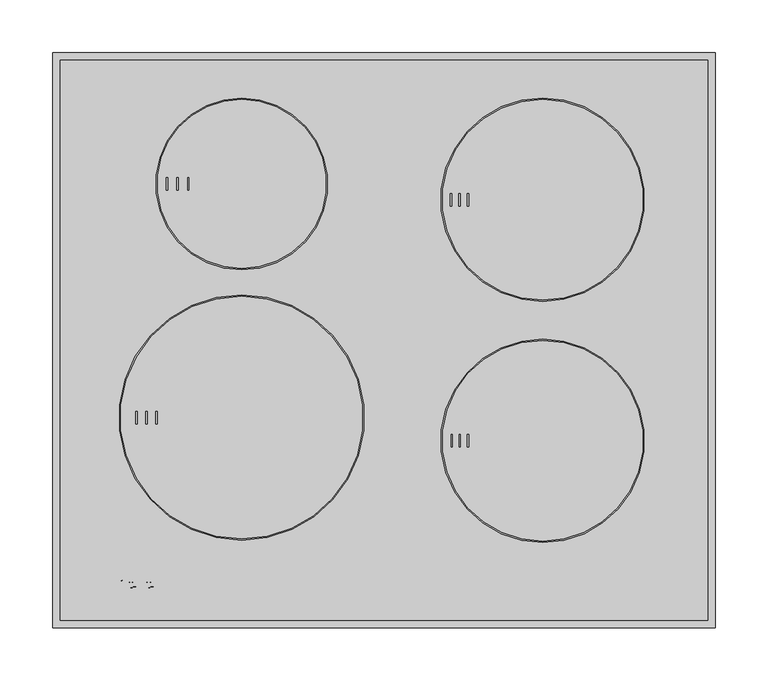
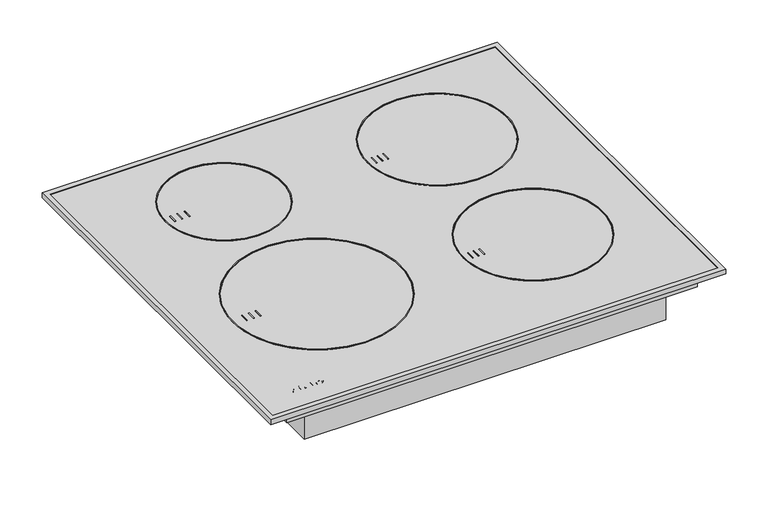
"""IFC4 building model written with IfcOpenShell, lengths in millimetres: proxy geometry, 12481660_USA_KM7020FR : 26702010_USA_12481660_KM7020FR."""

from ifc_helpers import new_model, si_unit, point, frame, frame_2d, origin, place, context, project, spatial, polyline, circle_curve, ellipse_curve, trimmed, segment, composite_curve, outline, extrude, faceted_brep, source, transform, mapped, element, save
from ifc_brep_helpers import plane_surface, cylinder_surface, revolved_surface, extruded_surface, advanced_brep


def specialty_equipment_8e6997ad(model_context):
    return source(origin(), model_context, "Body", "SolidModel", [
        faceted_brep([(306.0, 537.0, 7.0), (306.0, 537.0, 6.0), (306.0, 7.0, 6.0), (306.0, 7.0, 7.0), (313.0, 544.0, 0.0), (313.0, 544.0, 7.0), (313.0, 0.0, 7.0), (313.0, 0.0, 0.0), (312.0, 543.0, 6.0), (312.0, 543.0, 0.0), (312.0, 1.0, 0.0), (312.0, 1.0, 6.0), (-306.0, 7.0, 6.0), (-306.0, 7.0, 7.0), (-313.0, 0.0, 7.0), (-313.0, 0.0, 0.0), (-312.0, 1.0, 0.0), (-312.0, 1.0, 6.0), (-306.0, 537.0, 6.0), (-306.0, 537.0, 7.0), (-313.0, 544.0, 7.0), (-313.0, 544.0, 0.0), (-312.0, 543.0, 0.0), (-312.0, 543.0, 6.0)], [[[0, 1, 2, 3]], [[4, 5, 6, 7]], [[8, 9, 10, 11]], [[3, 2, 12, 13]], [[7, 6, 14, 15]], [[11, 10, 16, 17]], [[13, 12, 18, 19]], [[15, 14, 20, 21]], [[17, 16, 22, 23]], [[19, 18, 1, 0]], [[5, 20, 14, 6], [3, 13, 19, 0]], [[21, 20, 5, 4]], [[7, 15, 21, 4], [9, 22, 16, 10]], [[23, 22, 9, 8]], [[11, 17, 23, 8], [1, 18, 12, 2]]]),
        extrude(outline(polyline([(310.0, 538.0), (310.0, 1.0), (-310.0, 1.0), (-310.0, 538.0), (310.0, 538.0)])), frame((0.0, 0.0, 2.0), z_axis=(0.0, 0.0, 1.0), x_axis=(1.0, 0.0, 0.0)), (0.0, 0.0, 1.0), 4.0),
        extrude(outline(polyline([(282.0, 529.5), (282.0, 14.5), (-282.0, 14.5), (-282.0, 529.5), (282.0, 529.5)])), frame((0.0, 0.0, -17.0), z_axis=(0.0, 0.0, 1.0), x_axis=(1.0, 0.0, 0.0)), (0.0, 0.0, 1.0), 19.0),
        extrude(outline(polyline([(248.5, 512.5), (248.5, 31.5), (-248.5, 31.5), (-248.5, 512.5), (248.5, 512.5)])), frame((0.0, 0.0, -63.1850033), z_axis=(0.0, 0.0, 1.0), x_axis=(1.0, 0.0, 0.0)), (0.0, 0.0, 1.0), 46.1850033),
        extrude(outline(composite_curve([segment(trimmed(circle_curve(frame_2d((-134.5, 199.0)), 116.0), [point((-134.5, 315.0))], [point((-134.5, 83.0))], False, "CARTESIAN"), True, "CONTINUOUS"), segment(trimmed(circle_curve(frame_2d((-134.5, 199.0)), 116.0), [point((-134.5, 83.0))], [point((-134.5, 315.0))], False, "CARTESIAN"), True, "CONTINUOUS")], self_intersect=False), holes=[composite_curve([segment(trimmed(circle_curve(frame_2d((-134.5, 199.0)), 114.8), [point((-134.5, 313.8))], [point((-134.5, 84.2))], True, "CARTESIAN"), True, "CONTINUOUS"), segment(trimmed(circle_curve(frame_2d((-134.5, 199.0)), 114.8), [point((-134.5, 84.2))], [point((-134.5, 313.8))], True, "CARTESIAN"), True, "CONTINUOUS")], self_intersect=False)]), frame((0.0, 0.0, 6.0), z_axis=(0.0, 0.0, 1.0), x_axis=(1.0, 0.0, 0.0)), (0.0, 0.0, 1.0), 1.0),
        extrude(outline(polyline([(-234.5, 205.0), (-233.3, 205.0), (-233.3, 193.0), (-234.5, 193.0), (-234.5, 205.0)])), frame((0.0, 0.0, 6.0), z_axis=(0.0, 0.0, 1.0), x_axis=(1.0, 0.0, 0.0)), (0.0, 0.0, 1.0), 1.0),
        extrude(outline(polyline([(-225.1, 205.0), (-223.9, 205.0), (-223.9, 193.0), (-225.1, 193.0), (-225.1, 205.0)])), frame((0.0, 0.0, 6.0), z_axis=(0.0, 0.0, 1.0), x_axis=(1.0, 0.0, 0.0)), (0.0, 0.0, 1.0), 1.0),
        extrude(outline(polyline([(-215.7, 205.0), (-214.5, 205.0), (-214.5, 193.0), (-215.7, 193.0), (-215.7, 205.0)])), frame((0.0, 0.0, 6.0), z_axis=(0.0, 0.0, 1.0), x_axis=(1.0, 0.0, 0.0)), (0.0, 0.0, 1.0), 1.0),
        extrude(outline(composite_curve([segment(trimmed(circle_curve(frame_2d((150.0, 177.0)), 96.2), [point((150.0, 273.2))], [point((150.0, 80.8))], False, "CARTESIAN"), True, "CONTINUOUS"), segment(trimmed(circle_curve(frame_2d((150.0, 177.0)), 96.2), [point((150.0, 80.8))], [point((150.0, 273.2))], False, "CARTESIAN"), True, "CONTINUOUS")], self_intersect=False), holes=[composite_curve([segment(trimmed(circle_curve(frame_2d((150.0, 177.0)), 95.0), [point((150.0, 272.0))], [point((150.0, 82.0))], True, "CARTESIAN"), True, "CONTINUOUS"), segment(trimmed(circle_curve(frame_2d((150.0, 177.0)), 95.0), [point((150.0, 82.0))], [point((150.0, 272.0))], True, "CARTESIAN"), True, "CONTINUOUS")], self_intersect=False)]), frame((0.0, 0.0, 6.0), z_axis=(0.0, 0.0, 1.0), x_axis=(1.0, 0.0, 0.0)), (0.0, 0.0, 1.0), 1.0),
        extrude(outline(polyline([(78.8, 183.0), (80.0, 183.0), (80.0, 171.0), (78.8, 171.0), (78.8, 183.0)])), frame((0.0, 0.0, 6.0), z_axis=(0.0, 0.0, 1.0), x_axis=(1.0, 0.0, 0.0)), (0.0, 0.0, 1.0), 1.0),
        extrude(outline(polyline([(71.1, 183.0), (72.3, 183.0), (72.3, 171.0), (71.1, 171.0), (71.1, 183.0)])), frame((0.0, 0.0, 6.0), z_axis=(0.0, 0.0, 1.0), x_axis=(1.0, 0.0, 0.0)), (0.0, 0.0, 1.0), 1.0),
        extrude(outline(polyline([(63.4, 183.0), (64.6, 183.0), (64.6, 171.0), (63.4, 171.0), (63.4, 183.0)])), frame((0.0, 0.0, 6.0), z_axis=(0.0, 0.0, 1.0), x_axis=(1.0, 0.0, 0.0)), (0.0, 0.0, 1.0), 1.0),
        extrude(outline(composite_curve([segment(trimmed(circle_curve(frame_2d((-134.5, 420.0)), 81.2), [point((-134.5, 501.2))], [point((-134.5, 338.8))], False, "CARTESIAN"), True, "CONTINUOUS"), segment(trimmed(circle_curve(frame_2d((-134.5, 420.0)), 81.2), [point((-134.5, 338.8))], [point((-134.5, 501.2))], False, "CARTESIAN"), True, "CONTINUOUS")], self_intersect=False), holes=[composite_curve([segment(trimmed(circle_curve(frame_2d((-134.5, 420.0)), 80.0), [point((-134.5, 500.0))], [point((-134.5, 340.0))], True, "CARTESIAN"), True, "CONTINUOUS"), segment(trimmed(circle_curve(frame_2d((-134.5, 420.0)), 80.0), [point((-134.5, 340.0))], [point((-134.5, 500.0))], True, "CARTESIAN"), True, "CONTINUOUS")], self_intersect=False)]), frame((0.0, 0.0, 6.0), z_axis=(0.0, 0.0, 1.0), x_axis=(1.0, 0.0, 0.0)), (0.0, 0.0, 1.0), 1.0),
        extrude(outline(polyline([(-185.7, 426.0), (-184.5, 426.0), (-184.5, 414.0), (-185.7, 414.0), (-185.7, 426.0)])), frame((0.0, 0.0, 6.0), z_axis=(0.0, 0.0, 1.0), x_axis=(1.0, 0.0, 0.0)), (0.0, 0.0, 1.0), 1.0),
        extrude(outline(polyline([(-195.7, 426.0), (-194.5, 426.0), (-194.5, 414.0), (-195.7, 414.0), (-195.7, 426.0)])), frame((0.0, 0.0, 6.0), z_axis=(0.0, 0.0, 1.0), x_axis=(1.0, 0.0, 0.0)), (0.0, 0.0, 1.0), 1.0),
        extrude(outline(polyline([(-205.7, 426.0), (-204.5, 426.0), (-204.5, 414.0), (-205.7, 414.0), (-205.7, 426.0)])), frame((0.0, 0.0, 6.0), z_axis=(0.0, 0.0, 1.0), x_axis=(1.0, 0.0, 0.0)), (0.0, 0.0, 1.0), 1.0),
        extrude(outline(composite_curve([segment(trimmed(circle_curve(frame_2d((150.0, 405.0)), 96.2), [point((150.0, 501.2))], [point((150.0, 308.8))], False, "CARTESIAN"), True, "CONTINUOUS"), segment(trimmed(circle_curve(frame_2d((150.0, 405.0)), 96.2), [point((150.0, 308.8))], [point((150.0, 501.2))], False, "CARTESIAN"), True, "CONTINUOUS")], self_intersect=False), holes=[composite_curve([segment(trimmed(circle_curve(frame_2d((150.0, 405.0)), 95.0), [point((150.0, 500.0))], [point((150.0, 310.0))], True, "CARTESIAN"), True, "CONTINUOUS"), segment(trimmed(circle_curve(frame_2d((150.0, 405.0)), 95.0), [point((150.0, 310.0))], [point((150.0, 500.0))], True, "CARTESIAN"), True, "CONTINUOUS")], self_intersect=False)]), frame((0.0, 0.0, 6.0), z_axis=(0.0, 0.0, 1.0), x_axis=(1.0, 0.0, 0.0)), (0.0, 0.0, 1.0), 1.0),
        extrude(outline(polyline([(78.8, 411.0), (80.0, 411.0), (80.0, 399.0), (78.8, 399.0), (78.8, 411.0)])), frame((0.0, 0.0, 6.0), z_axis=(0.0, 0.0, 1.0), x_axis=(1.0, 0.0, 0.0)), (0.0, 0.0, 1.0), 1.0),
        extrude(outline(polyline([(70.8, 399.0), (70.8, 411.0), (72.0, 411.0), (72.0, 399.0), (70.8, 399.0)])), frame((0.0, 0.0, 6.0), z_axis=(0.0, 0.0, 1.0), x_axis=(1.0, 0.0, 0.0)), (0.0, 0.0, 1.0), 1.0),
        extrude(outline(polyline([(62.8, 411.0), (64.0, 411.0), (64.0, 399.0), (62.8, 399.0), (62.8, 411.0)])), frame((0.0, 0.0, 6.0), z_axis=(0.0, 0.0, 1.0), x_axis=(1.0, 0.0, 0.0)), (0.0, 0.0, 1.0), 1.0),
        extrude(outline(composite_curve([segment(trimmed(circle_curve(frame_2d((-17.8, 500.0)), 7.5), [point((-17.8, 507.5))], [point((-17.8, 492.5))], False, "CARTESIAN"), True, "CONTINUOUS"), segment(trimmed(circle_curve(frame_2d((-17.8, 500.0)), 7.5), [point((-17.8, 492.5))], [point((-17.8, 507.5))], False, "CARTESIAN"), True, "CONTINUOUS")], self_intersect=False)), frame((0.0, 0.0, -93.2), z_axis=(0.0, 0.0, 1.0), x_axis=(1.0, 0.0, 0.0)), (0.0, 0.0, 1.0), 30.0),
        extrude(outline(polyline([(-10.4227397, 495.0), (-17.8, 495.0), (-17.8, 496.2557039), (-11.6784436, 496.2557039), (-11.6784436, 499.5519266), (-17.329111, 499.5519266), (-17.329111, 500.8076304), (-11.6784436, 500.8076304), (-11.6784436, 503.7899271), (-17.643037, 503.7899271), (-17.643037, 505.045631), (-10.4227397, 505.045631), (-10.4227397, 495.0)])), frame((0.0, 0.0, -94.2), z_axis=(0.0, 0.0, 1.0), x_axis=(1.0, 0.0, 0.0)), (0.0, 0.0, 1.0), 1.0),
        extrude(outline(polyline([(-19.6835558, 495.0), (-25.9620752, 495.0), (-25.9620752, 496.2557039), (-20.9392597, 496.2557039), (-20.9392597, 505.045631), (-19.6835558, 505.045631), (-19.6835558, 495.0)])), frame((0.0, 0.0, -94.2), z_axis=(0.0, 0.0, 1.0), x_axis=(1.0, 0.0, 0.0)), (0.0, 0.0, 1.0), 1.0),
        advanced_brep(
        [(-223.14, 38.8948833, 6.0802537), (-223.14, 39.7028828, 6.0811551), (-217.788, 39.7028828, 6.0811551), (-227.1, 39.7028828, 6.0811551), (-224.9, 36.9988845, 6.0781386), (-217.924, 38.8948833, 6.0802537), (-220.34, 38.8948833, 6.0802537), (-222.244, 37.9988838, 6.0792542), (-223.14, 40.7268821, 6.0822974), (-223.14, 41.5988816, 6.0832701), (-221.772, 41.5988816, 6.0832701), (-221.772, 40.7268821, 6.0822974), (-223.14, 38.8959988, 5.0802543), (-222.244, 37.9999994, 5.0792548), (-220.34, 38.8959988, 5.0802543), (-217.924, 38.8959988, 5.0802543), (-224.9, 37.0, 5.0781393), (-227.1, 39.7039983, 5.0811557), (-217.788, 39.7039983, 5.0811557), (-223.14, 39.7039983, 5.0811557), (-223.14, 40.7279977, 5.082298), (-221.772, 40.7279977, 5.082298), (-221.772, 41.5999971, 5.0832707), (-223.14, 41.5999971, 5.0832707)],
        [
            (0, 1),
            (1, 2),
            (2, 3, ellipse_curve(frame((-222.444, 39.7028828, 6.0811551), z_axis=(0.0, -0.0011155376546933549, 0.9999993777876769), x_axis=(-1.0, 0.0, 0.0)), 4.656, 3.848)),
            (3, 4, circle_curve(frame((-224.0039564, 39.9748826, 6.0814585), z_axis=(0.0, -0.0011155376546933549, 0.9999993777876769), x_axis=(0.0, -0.9999993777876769, -0.0011155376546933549)), 3.1079688)),
            (4, 5, circle_curve(frame((-222.5372064, 42.0868813, 6.0838145), z_axis=(0.0, -0.0011155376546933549, 0.9999993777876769), x_axis=(0.0, -0.9999993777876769, -0.0011155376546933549)), 5.6098607)),
            (5, 6),
            (6, 7, circle_curve(frame((-221.8529412, 39.6388828, 6.0810837), z_axis=(0.0, 0.0011155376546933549, -0.9999993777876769), x_axis=(0.0, -0.9999993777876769, -0.0011155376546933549)), 1.6859795)),
            (7, 0, circle_curve(frame((-222.244, 38.8948833, 6.0802537), z_axis=(0.0, 0.0011155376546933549, -0.9999993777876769), x_axis=(0.0, -0.9999993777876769, -0.0011155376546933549)), 0.896)),
            (8, 9),
            (9, 10, circle_curve(frame((-222.456, 41.5988816, 6.0832701), z_axis=(0.0, 0.0011155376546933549, -0.9999993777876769), x_axis=(0.0, -0.9999993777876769, -0.0011155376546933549)), 0.684)),
            (10, 11),
            (11, 8),
            (12, 13, circle_curve(frame((-222.244, 38.8959988, 5.0802543), z_axis=(0.0, -0.0011155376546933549, 0.9999993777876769), x_axis=(0.0, -0.9999993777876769, -0.0011155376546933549)), 0.896)),
            (13, 14, circle_curve(frame((-221.8529412, 39.6399984, 5.0810843), z_axis=(0.0, -0.0011155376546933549, 0.9999993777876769), x_axis=(0.0, -0.9999993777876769, -0.0011155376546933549)), 1.6859795)),
            (14, 15),
            (15, 16, circle_curve(frame((-222.5372064, 42.0879968, 5.0838151), z_axis=(0.0, 0.0011155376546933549, -0.9999993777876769), x_axis=(0.0, -0.9999993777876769, -0.0011155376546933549)), 5.6098607)),
            (16, 17, circle_curve(frame((-224.0039564, 39.9759981, 5.0814591), z_axis=(0.0, 0.0011155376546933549, -0.9999993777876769), x_axis=(0.0, -0.9999993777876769, -0.0011155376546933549)), 3.1079688)),
            (17, 18, ellipse_curve(frame((-222.444, 39.7039983, 5.0811557), z_axis=(0.0, 0.0011155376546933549, -0.9999993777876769), x_axis=(-1.0, 0.0, 0.0)), 4.656, 3.848)),
            (18, 19),
            (19, 12),
            (20, 21),
            (21, 22),
            (22, 23, circle_curve(frame((-222.456, 41.5999971, 5.0832707), z_axis=(0.0, -0.0011155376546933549, 0.9999993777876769), x_axis=(0.0, -0.9999993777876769, -0.0011155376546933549)), 0.684)),
            (23, 20),
            (0, 12),
            (19, 1),
            (18, 2),
            (5, 15),
            (14, 6),
            (17, 3),
            (13, 7),
            (16, 4),
            (8, 20),
            (23, 9),
            (22, 10),
            (21, 11),
        ],
        [
            plane_surface(frame((-223.14, 39.7028828, 6.0811551), z_axis=(0.0, -0.0011155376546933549, 0.9999993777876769), x_axis=(0.0, 0.9999993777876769, 0.0011155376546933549))),
            plane_surface(frame((-223.14, 39.7039983, 5.0811557), z_axis=(0.0, 0.0011155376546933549, -0.9999993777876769), x_axis=(0.0, -0.9999993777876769, -0.0011155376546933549))),
            plane_surface(frame((-223.14, 38.8948833, 6.0802537), z_axis=(1.0000000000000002, 0.0, 0.0), x_axis=(0.0, 0.001115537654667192, -0.999999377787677))),
            plane_surface(frame((-223.14, 39.7028828, 6.0811551), z_axis=(0.0, -0.999999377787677, -0.001115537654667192), x_axis=(0.0, 0.001115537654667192, -0.999999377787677))),
            plane_surface(frame((-217.924, 38.8948833, 6.0802537), z_axis=(0.0, 0.999999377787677, 0.001115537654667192), x_axis=(0.0, 0.001115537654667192, -0.999999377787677))),
            extruded_surface(trimmed(ellipse_curve(frame((-222.444, 39.7051139, 4.0811563), z_axis=(0.0, -0.0011155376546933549, 0.9999993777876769), x_axis=(-1.0, 0.0, 0.0)), 4.656, 3.848), [point((-217.788, 39.7051139, 4.0811563))], [point((-227.1, 39.7051139, 4.0811563))], True, "CARTESIAN"), (0.0, -0.001115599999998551, 0.9999994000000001), 1.00000002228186),
            revolved_surface(polyline([(-221.8529412, 37.954019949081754, 5.079203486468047), (-221.8529412, 37.95290441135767, 6.079202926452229)]), (-221.8529412, 39.6399984, 5.0810843), (0.0, 0.0011155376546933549, -0.9999993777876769)),
            revolved_surface(polyline([(-222.244, 37.99999935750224, 5.079254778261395), (-222.244, 37.99888381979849, 6.079254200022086)]), (-222.244, 38.8959988, 5.0802543), (0.0, 0.0011155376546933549, -0.9999993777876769)),
            cylinder_surface(frame((-224.0039564, 39.9759981, 5.0814591), z_axis=(0.0, -0.0011155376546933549, 0.9999993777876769), x_axis=(0.0, -0.9999993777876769, -0.0011155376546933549)), 3.1079688),
            cylinder_surface(frame((-222.5372064, 42.0879968, 5.0838151), z_axis=(0.0, -0.0011155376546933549, 0.9999993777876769), x_axis=(0.0, -0.9999993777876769, -0.0011155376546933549)), 5.6098607),
            plane_surface(frame((-223.14, 40.7268821, 6.0822974), z_axis=(1.0000000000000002, 0.0, 0.0), x_axis=(0.0, 0.001115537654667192, -0.999999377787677))),
            revolved_surface(polyline([(-222.456, 40.915997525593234, 5.08250767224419), (-222.456, 40.91488198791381, 6.082507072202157)]), (-222.456, 41.5999971, 5.0832707), (0.0, 0.0011155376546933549, -0.9999993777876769)),
            plane_surface(frame((-221.772, 41.5988816, 6.0832701), z_axis=(-1.0000000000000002, 0.0, 0.0), x_axis=(0.0, 0.001115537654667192, -0.999999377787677))),
            plane_surface(frame((-221.772, 40.7268821, 6.0822974), z_axis=(0.0, 0.999999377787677, 0.001115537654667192), x_axis=(0.0, 0.001115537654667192, -0.999999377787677))),
        ],
        [
            (0, [[1, 2, 3, 4, 5, 6, 7, 8], [9, 10, 11, 12]]),
            (1, [[13, 14, 15, 16, 17, 18, 19, 20], [21, 22, 23, 24]]),
            (2, [[-1, 25, -20, 26]]),
            (3, [[-2, -26, -19, 27]]),
            (4, [[-6, 28, -15, 29]]),
            (5, [[-3, -27, -18, 30]]),
            (6, [[-7, -29, -14, 31]]),
            (7, [[-8, -31, -13, -25]]),
            (8, [[-4, -30, -17, 32]]),
            (9, [[-5, -32, -16, -28]]),
            (10, [[-9, 33, -24, 34]]),
            (11, [[-10, -34, -23, 35]]),
            (12, [[-11, -35, -22, 36]]),
            (13, [[-12, -36, -21, -33]]),
        ],
    ),
        advanced_brep(
        [(-239.836, 38.8948833, 6.0802537), (-239.836, 39.7028828, 6.0811551), (-234.484, 39.7028828, 6.0811551), (-243.796, 39.7028828, 6.0811551), (-241.596, 36.9988845, 6.0781386), (-234.62, 38.8948833, 6.0802537), (-237.036, 38.8948833, 6.0802537), (-238.94, 37.9988838, 6.0792542), (-239.836, 40.7268821, 6.0822974), (-239.836, 41.5988816, 6.0832701), (-238.468, 41.5988816, 6.0832701), (-238.468, 40.7268821, 6.0822974), (-239.836, 38.8959988, 5.0802543), (-238.94, 37.9999994, 5.0792548), (-237.036, 38.8959988, 5.0802543), (-234.62, 38.8959988, 5.0802543), (-241.596, 37.0, 5.0781393), (-243.796, 39.7039983, 5.0811557), (-234.484, 39.7039983, 5.0811557), (-239.836, 39.7039983, 5.0811557), (-239.836, 40.7279977, 5.082298), (-238.468, 40.7279977, 5.082298), (-238.468, 41.5999971, 5.0832707), (-239.836, 41.5999971, 5.0832707)],
        [
            (0, 1),
            (1, 2),
            (2, 3, ellipse_curve(frame((-239.14, 39.7028828, 6.0811551), z_axis=(0.0, -0.0011155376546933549, 0.9999993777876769), x_axis=(-1.0, 0.0, 0.0)), 4.656, 3.848)),
            (3, 4, circle_curve(frame((-240.6999564, 39.9748826, 6.0814585), z_axis=(0.0, -0.0011155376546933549, 0.9999993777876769), x_axis=(0.0, -0.9999993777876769, -0.0011155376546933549)), 3.1079688)),
            (4, 5, circle_curve(frame((-239.2332064, 42.0868813, 6.0838145), z_axis=(0.0, -0.0011155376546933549, 0.9999993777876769), x_axis=(0.0, -0.9999993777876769, -0.0011155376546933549)), 5.6098607)),
            (5, 6),
            (6, 7, circle_curve(frame((-238.5489412, 39.6388828, 6.0810837), z_axis=(0.0, 0.0011155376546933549, -0.9999993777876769), x_axis=(0.0, -0.9999993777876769, -0.0011155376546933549)), 1.6859795)),
            (7, 0, circle_curve(frame((-238.94, 38.8948833, 6.0802537), z_axis=(0.0, 0.0011155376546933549, -0.9999993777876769), x_axis=(0.0, -0.9999993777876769, -0.0011155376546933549)), 0.896)),
            (8, 9),
            (9, 10, circle_curve(frame((-239.152, 41.5988816, 6.0832701), z_axis=(0.0, 0.0011155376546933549, -0.9999993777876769), x_axis=(0.0, -0.9999993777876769, -0.0011155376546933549)), 0.684)),
            (10, 11),
            (11, 8),
            (12, 13, circle_curve(frame((-238.94, 38.8959988, 5.0802543), z_axis=(0.0, -0.0011155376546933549, 0.9999993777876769), x_axis=(0.0, -0.9999993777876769, -0.0011155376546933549)), 0.896)),
            (13, 14, circle_curve(frame((-238.5489412, 39.6399984, 5.0810843), z_axis=(0.0, -0.0011155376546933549, 0.9999993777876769), x_axis=(0.0, -0.9999993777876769, -0.0011155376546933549)), 1.6859795)),
            (14, 15),
            (15, 16, circle_curve(frame((-239.2332064, 42.0879968, 5.0838151), z_axis=(0.0, 0.0011155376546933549, -0.9999993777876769), x_axis=(0.0, -0.9999993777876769, -0.0011155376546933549)), 5.6098607)),
            (16, 17, circle_curve(frame((-240.6999564, 39.9759981, 5.0814591), z_axis=(0.0, 0.0011155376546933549, -0.9999993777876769), x_axis=(0.0, -0.9999993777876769, -0.0011155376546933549)), 3.1079688)),
            (17, 18, ellipse_curve(frame((-239.14, 39.7039983, 5.0811557), z_axis=(0.0, 0.0011155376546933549, -0.9999993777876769), x_axis=(-1.0, 0.0, 0.0)), 4.656, 3.848)),
            (18, 19),
            (19, 12),
            (20, 21),
            (21, 22),
            (22, 23, circle_curve(frame((-239.152, 41.5999971, 5.0832707), z_axis=(0.0, -0.0011155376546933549, 0.9999993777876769), x_axis=(0.0, -0.9999993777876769, -0.0011155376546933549)), 0.684)),
            (23, 20),
            (0, 12),
            (19, 1),
            (18, 2),
            (5, 15),
            (14, 6),
            (17, 3),
            (13, 7),
            (16, 4),
            (8, 20),
            (23, 9),
            (22, 10),
            (21, 11),
        ],
        [
            plane_surface(frame((-239.836, 39.7028828, 6.0811551), z_axis=(0.0, -0.0011155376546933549, 0.9999993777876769), x_axis=(0.0, 0.9999993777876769, 0.0011155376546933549))),
            plane_surface(frame((-239.836, 39.7039983, 5.0811557), z_axis=(0.0, 0.0011155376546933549, -0.9999993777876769), x_axis=(0.0, -0.9999993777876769, -0.0011155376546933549))),
            plane_surface(frame((-239.836, 38.8948833, 6.0802537), z_axis=(1.0000000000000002, 0.0, 0.0), x_axis=(0.0, 0.001115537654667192, -0.999999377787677))),
            plane_surface(frame((-239.836, 39.7028828, 6.0811551), z_axis=(0.0, -0.999999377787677, -0.001115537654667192), x_axis=(0.0, 0.001115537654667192, -0.999999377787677))),
            plane_surface(frame((-234.62, 38.8948833, 6.0802537), z_axis=(0.0, 0.999999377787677, 0.001115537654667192), x_axis=(0.0, 0.001115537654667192, -0.999999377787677))),
            extruded_surface(trimmed(ellipse_curve(frame((-239.14, 39.7051139, 4.0811563), z_axis=(0.0, -0.0011155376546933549, 0.9999993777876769), x_axis=(-1.0, 0.0, 0.0)), 4.656, 3.848), [point((-234.484, 39.7051139, 4.0811563))], [point((-243.796, 39.7051139, 4.0811563))], True, "CARTESIAN"), (0.0, -0.001115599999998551, 0.9999994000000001), 1.00000002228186),
            revolved_surface(polyline([(-238.5489412, 37.954019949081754, 5.079203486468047), (-238.5489412, 37.95290441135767, 6.079202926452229)]), (-238.5489412, 39.6399984, 5.0810843), (0.0, 0.0011155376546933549, -0.9999993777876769)),
            revolved_surface(polyline([(-238.94, 37.99999935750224, 5.079254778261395), (-238.94, 37.99888381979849, 6.079254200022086)]), (-238.94, 38.8959988, 5.0802543), (0.0, 0.0011155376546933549, -0.9999993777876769)),
            cylinder_surface(frame((-240.6999564, 39.9759981, 5.0814591), z_axis=(0.0, -0.0011155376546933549, 0.9999993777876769), x_axis=(0.0, -0.9999993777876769, -0.0011155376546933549)), 3.1079688),
            cylinder_surface(frame((-239.2332064, 42.0879968, 5.0838151), z_axis=(0.0, -0.0011155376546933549, 0.9999993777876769), x_axis=(0.0, -0.9999993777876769, -0.0011155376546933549)), 5.6098607),
            plane_surface(frame((-239.836, 40.7268821, 6.0822974), z_axis=(1.0000000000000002, 0.0, 0.0), x_axis=(0.0, 0.001115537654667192, -0.999999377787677))),
            revolved_surface(polyline([(-239.152, 40.915997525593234, 5.08250767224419), (-239.152, 40.91488198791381, 6.082507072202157)]), (-239.152, 41.5999971, 5.0832707), (0.0, 0.0011155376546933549, -0.9999993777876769)),
            plane_surface(frame((-238.468, 41.5988816, 6.0832701), z_axis=(-1.0000000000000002, 0.0, 0.0), x_axis=(0.0, 0.001115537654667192, -0.999999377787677))),
            plane_surface(frame((-238.468, 40.7268821, 6.0822974), z_axis=(0.0, 0.999999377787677, 0.001115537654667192), x_axis=(0.0, 0.001115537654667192, -0.999999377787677))),
        ],
        [
            (0, [[1, 2, 3, 4, 5, 6, 7, 8], [9, 10, 11, 12]]),
            (1, [[13, 14, 15, 16, 17, 18, 19, 20], [21, 22, 23, 24]]),
            (2, [[-1, 25, -20, 26]]),
            (3, [[-2, -26, -19, 27]]),
            (4, [[-6, 28, -15, 29]]),
            (5, [[-3, -27, -18, 30]]),
            (6, [[-7, -29, -14, 31]]),
            (7, [[-8, -31, -13, -25]]),
            (8, [[-4, -30, -17, 32]]),
            (9, [[-5, -32, -16, -28]]),
            (10, [[-9, 33, -24, 34]]),
            (11, [[-10, -34, -23, 35]]),
            (12, [[-11, -35, -22, 36]]),
            (13, [[-12, -36, -21, -33]]),
        ],
    ),
        extrude(outline(polyline([(0.0, 0.0), (-0.0109086, -2.9993294), (-1.4390415, -2.9920868), (-1.4315307, 0.0), (0.0, 0.0)])), frame((-248.58, 44.5279953, 5.086537), z_axis=(0.0, -0.001115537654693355, 0.9999993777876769), x_axis=(-0.4247202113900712, 0.9053240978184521, 0.0010099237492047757)), (0.0, 0.0, 1.0), 1.0),
        extrude(outline(polyline([(-0.4933908, 2.4141097), (-2.7800844, -2.4601583), (-7.0459741, -0.4588767), (-7.4401145, -1.299018), (-8.6568709, -0.728194), (-5.9760369, 4.9862153), (-4.7592805, 4.4153913), (-5.1636142, 3.5535222), (-2.1941493, 2.1604399), (-1.7898157, 3.022309), (-0.4933908, 2.4141097)])), frame((-248.58, 44.5279953, 5.086537), z_axis=(0.0, -0.001115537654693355, 0.9999993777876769), x_axis=(-0.4247202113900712, 0.9053240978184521, 0.0010099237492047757)), (0.0, 0.0, 1.0), 1.0),
        extrude(outline(polyline([(0.0, 0.0), (0.0, -1.304), (-5.504, -1.304), (-5.504, 5.3519999), (-6.488, 5.3519999), (-6.488, 6.696), (0.0, 6.696), (0.0, 5.3519999), (-0.96, 5.3519999), (-0.96, 0.0), (0.0, 0.0)])), frame((-234.036, 43.6959958, 5.0856089), z_axis=(0.0, -0.0011155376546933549, 0.9999993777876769), x_axis=(-1.0, 0.0, 0.0)), (0.0, 0.0, 1.0), 1.0),
        extrude(outline(polyline([(0.0, 0.0), (0.0, -1.304), (-5.576, -1.304), (-7.92, 1.696), (-10.256, -1.304), (-15.128, -1.304), (-15.128, 0.0), (-14.112, 0.0), (-14.112, 5.3519999), (-15.128, 5.3519999), (-15.128, 6.696), (-8.744, 6.696), (-8.744, 5.3519999), (-9.728, 5.3519999), (-9.728, 1.8807777), (-6.136, 6.696), (-2.56, 1.9488752), (-2.56, 5.3519999), (-3.52, 5.3519999), (-3.52, 6.696), (0.0, 6.696), (0.0, 5.3519999), (-0.968, 5.3519999), (-0.968, 0.0), (0.0, 0.0)])), frame((-266.5, 43.6959958, 5.0856089), z_axis=(0.0, -0.0011155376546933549, 0.9999993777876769), x_axis=(-1.0, 0.0, 0.0)), (0.0, 0.0, 1.0), 1.0),
    ])


if __name__ == "__main__":
    model = new_model("IFC4")
    model_context = context("Model", 3, world=origin())
    ifc_project = project(units=[si_unit("LENGTHUNIT", "METRE", prefix="MILLI")], contexts=[model_context])
    site = spatial("IfcSite", under=ifc_project)
    building = spatial("IfcBuilding", under=site)
    placement = place(None, origin())
    specialty_equipment_shape = specialty_equipment_8e6997ad(model_context)
    element("IfcBuildingElementProxy", 1, Name="12481660_USA_KM7020FR : 26702010_USA_12481660_KM7020FR", ObjectType="12481660_USA_KM7020FR : 26702010_USA_12481660_KM7020FR", at=placement, inside=building, context=model_context, shape_type="MappedRepresentation", body=[
        mapped(specialty_equipment_shape, transform((0.0, 0.0, 0.0), x_axis=(1.0, 0.0, 0.0), y_axis=(0.0, 1.0, 0.0), z_axis=(0.0, 0.0, 1.0))),
    ])
    save(model, "model.ifc")
